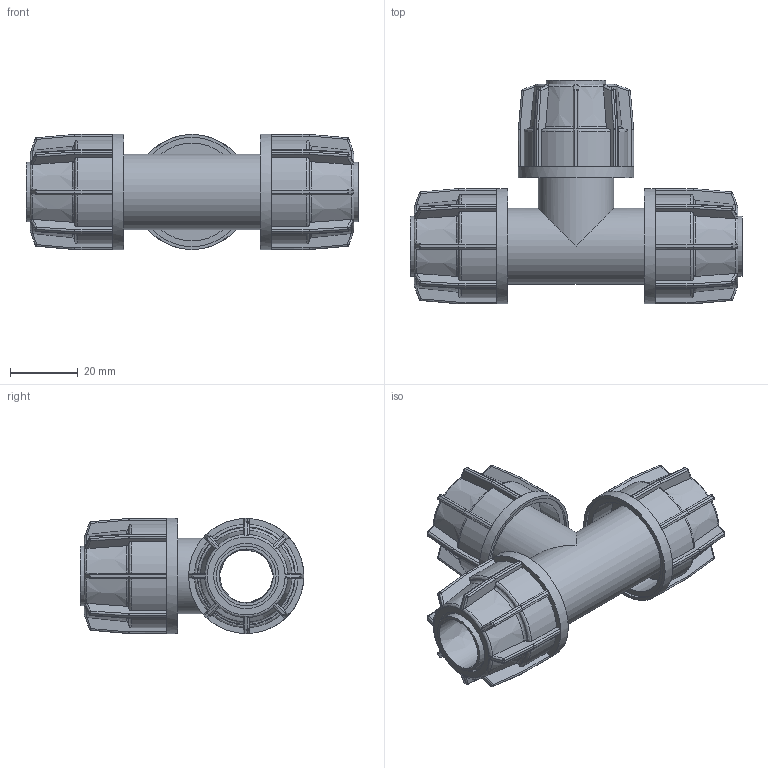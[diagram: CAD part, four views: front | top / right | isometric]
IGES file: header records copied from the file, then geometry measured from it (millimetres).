
Global section: file name: 040407016.ipt; native system: Autodesk Inventor 2015; preprocessor: unknown; author: KIM; date: 20180409.130631; units: millimetre
Bounding box: 98 x 66 x 34 mm (x, y, z)
Volume: 41959.1 mm3; surface area: 28350 mm2
Topology: 1 solids, 1 shells, 784 faces, 1870 edges, 1080 vertices
Faces by surface type: plane 378, cylinder 224, sphere 96, revolution 62, cone 24
Full cylindrical faces by diameter (mm): 17.6 x3, 22.4 x2, 34 x3
